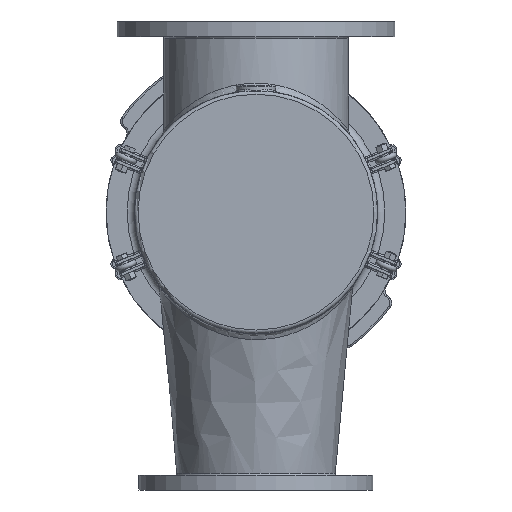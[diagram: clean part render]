
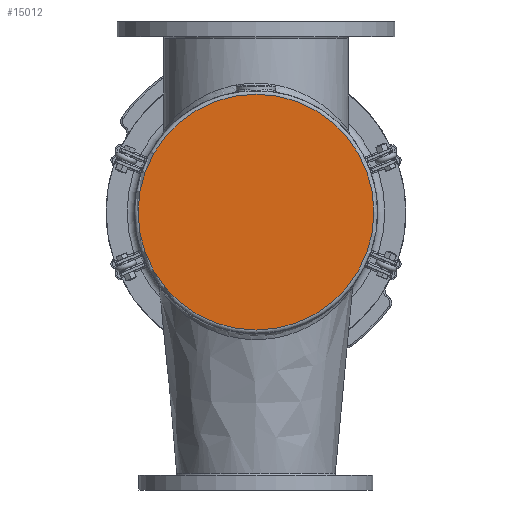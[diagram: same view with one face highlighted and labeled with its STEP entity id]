
A CAD part, front view. The second image highlights one B-rep face of the part: STEP entity #15012.
In plain terms, the highlighted planar face has unit normal (0, -1, 0).
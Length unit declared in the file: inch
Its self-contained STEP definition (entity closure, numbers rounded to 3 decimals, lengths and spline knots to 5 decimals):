
#2116=PLANE('',#16021);
#3367=FACE_OUTER_BOUND('',#4332,.T.);
#4332=EDGE_LOOP('',(#9998));
#5518=CIRCLE('',#16013,8.0625);
#6469=VERTEX_POINT('',#22994);
#7826=EDGE_CURVE('',#6469,#6469,#5518,.T.);
#9998=ORIENTED_EDGE('',*,*,#7826,.F.);
#15012=ADVANCED_FACE('',(#3367),#2116,.F.);
#16013=AXIS2_PLACEMENT_3D('',#22995,#18001,#18002);
#16021=AXIS2_PLACEMENT_3D('',#23006,#18017,#18018);
#18001=DIRECTION('center_axis',(0.,1.,0.));
#18002=DIRECTION('ref_axis',(1.,0.,0.));
#18017=DIRECTION('center_axis',(0.,1.,0.));
#18018=DIRECTION('ref_axis',(0.,0.,1.));
#22994=CARTESIAN_POINT('',(-8.0625,0.,0.));
#22995=CARTESIAN_POINT('Origin',(0.,0.,0.));
#23006=CARTESIAN_POINT('Origin',(0.,0.,0.));
